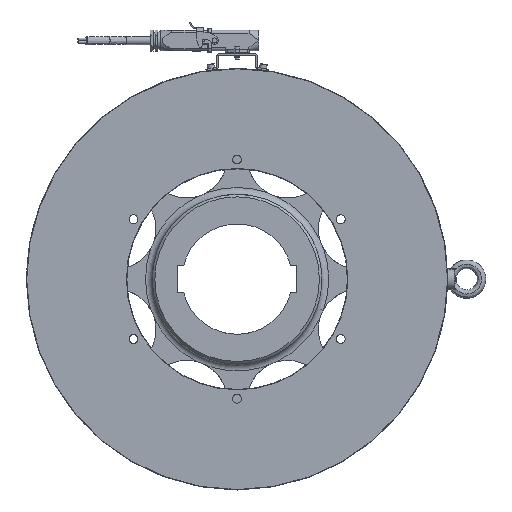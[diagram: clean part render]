
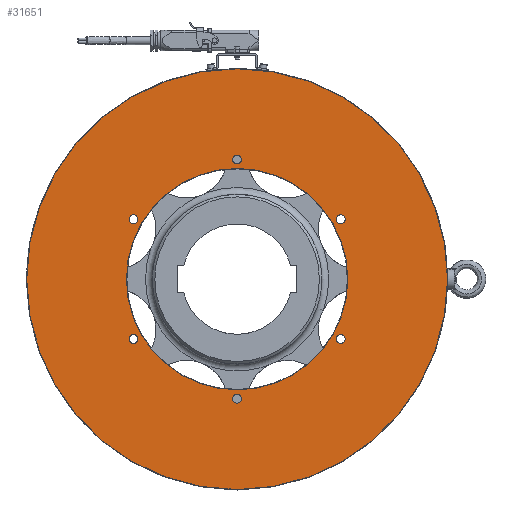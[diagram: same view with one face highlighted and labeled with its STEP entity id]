
A CAD part, left-side view. The second image highlights one B-rep face of the part: STEP entity #31651.
In plain terms, the highlighted planar face has unit normal (-1, 0, 0).
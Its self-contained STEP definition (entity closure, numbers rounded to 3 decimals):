
#428=FACE_BOUND('',#4457,.T.);
#429=FACE_BOUND('',#4458,.T.);
#430=FACE_BOUND('',#4459,.T.);
#431=FACE_BOUND('',#4460,.T.);
#432=FACE_BOUND('',#4461,.T.);
#433=FACE_BOUND('',#4462,.T.);
#434=FACE_BOUND('',#4463,.T.);
#1346=PLANE('',#33934);
#2732=FACE_OUTER_BOUND('',#4456,.T.);
#4456=EDGE_LOOP('',(#25369,#25370));
#4457=EDGE_LOOP('',(#25371));
#4458=EDGE_LOOP('',(#25372));
#4459=EDGE_LOOP('',(#25373));
#4460=EDGE_LOOP('',(#25374));
#4461=EDGE_LOOP('',(#25375));
#4462=EDGE_LOOP('',(#25376));
#4463=EDGE_LOOP('',(#25377));
#5778=CIRCLE('',#33907,130.5);
#5781=CIRCLE('',#33912,5.25);
#5782=CIRCLE('',#33914,5.25);
#5783=CIRCLE('',#33916,5.25);
#5784=CIRCLE('',#33918,5.25);
#5785=CIRCLE('',#33920,5.25);
#5786=CIRCLE('',#33922,5.25);
#5787=CIRCLE('',#33924,248.);
#5788=CIRCLE('',#33925,248.);
#13956=VERTEX_POINT('',#52200);
#13960=VERTEX_POINT('',#52270);
#13961=VERTEX_POINT('',#52274);
#13962=VERTEX_POINT('',#52278);
#13963=VERTEX_POINT('',#52282);
#13964=VERTEX_POINT('',#52286);
#13965=VERTEX_POINT('',#52290);
#13966=VERTEX_POINT('',#52294);
#13967=VERTEX_POINT('',#52295);
#17929=EDGE_CURVE('',#13956,#13956,#5778,.T.);
#17935=EDGE_CURVE('',#13960,#13960,#5781,.T.);
#17937=EDGE_CURVE('',#13961,#13961,#5782,.T.);
#17939=EDGE_CURVE('',#13962,#13962,#5783,.T.);
#17941=EDGE_CURVE('',#13963,#13963,#5784,.T.);
#17943=EDGE_CURVE('',#13964,#13964,#5785,.T.);
#17945=EDGE_CURVE('',#13965,#13965,#5786,.T.);
#17946=EDGE_CURVE('',#13966,#13967,#5787,.T.);
#17947=EDGE_CURVE('',#13967,#13966,#5788,.T.);
#25369=ORIENTED_EDGE('',*,*,#17946,.T.);
#25370=ORIENTED_EDGE('',*,*,#17947,.T.);
#25371=ORIENTED_EDGE('',*,*,#17945,.T.);
#25372=ORIENTED_EDGE('',*,*,#17943,.T.);
#25373=ORIENTED_EDGE('',*,*,#17941,.T.);
#25374=ORIENTED_EDGE('',*,*,#17939,.T.);
#25375=ORIENTED_EDGE('',*,*,#17937,.T.);
#25376=ORIENTED_EDGE('',*,*,#17935,.T.);
#25377=ORIENTED_EDGE('',*,*,#17929,.F.);
#31651=ADVANCED_FACE('',(#2732,#428,#429,#430,#431,#432,#433,#434),#1346,
 .T.);
#33907=AXIS2_PLACEMENT_3D('',#52202,#40990,#40991);
#33912=AXIS2_PLACEMENT_3D('',#52272,#41002,#41003);
#33914=AXIS2_PLACEMENT_3D('',#52276,#41007,#41008);
#33916=AXIS2_PLACEMENT_3D('',#52280,#41012,#41013);
#33918=AXIS2_PLACEMENT_3D('',#52284,#41017,#41018);
#33920=AXIS2_PLACEMENT_3D('',#52288,#41022,#41023);
#33922=AXIS2_PLACEMENT_3D('',#52292,#41027,#41028);
#33924=AXIS2_PLACEMENT_3D('',#52296,#41031,#41032);
#33925=AXIS2_PLACEMENT_3D('',#52297,#41033,#41034);
#33934=AXIS2_PLACEMENT_3D('',#52316,#41055,#41056);
#40990=DIRECTION('center_axis',(-1.,0.,0.));
#40991=DIRECTION('ref_axis',(0.,-1.,0.));
#41002=DIRECTION('center_axis',(1.,0.,0.));
#41003=DIRECTION('ref_axis',(0.,0.,
-1.));
#41007=DIRECTION('center_axis',(1.,0.,0.));
#41008=DIRECTION('ref_axis',(0.,0.,
-1.));
#41012=DIRECTION('center_axis',(1.,0.,0.));
#41013=DIRECTION('ref_axis',(0.,0.,
-1.));
#41017=DIRECTION('center_axis',(1.,0.,0.));
#41018=DIRECTION('ref_axis',(0.,0.,
-1.));
#41022=DIRECTION('center_axis',(1.,0.,0.));
#41023=DIRECTION('ref_axis',(0.,0.,
-1.));
#41027=DIRECTION('center_axis',(1.,0.,0.));
#41028=DIRECTION('ref_axis',(0.,0.,
-1.));
#41031=DIRECTION('center_axis',(-1.,0.,0.));
#41032=DIRECTION('ref_axis',(0.,1.,0.));
#41033=DIRECTION('center_axis',(-1.,0.,0.));
#41034=DIRECTION('ref_axis',(0.,1.,0.));
#41055=DIRECTION('center_axis',(-1.,0.,0.));
#41056=DIRECTION('ref_axis',(0.,0.,
1.));
#52200=CARTESIAN_POINT('',(-61.926,130.5,0.));
#52202=CARTESIAN_POINT('Origin',(-61.926,0.,
0.));
#52270=CARTESIAN_POINT('',(-61.926,122.11,75.75));
#52272=CARTESIAN_POINT('Origin',(-61.926,122.11,70.5));
#52274=CARTESIAN_POINT('',(-61.926,0.,-135.75));
#52276=CARTESIAN_POINT('Origin',(-61.926,0.,
-141.));
#52278=CARTESIAN_POINT('',(-61.926,-122.11,75.75));
#52280=CARTESIAN_POINT('Origin',(-61.926,-122.11,70.5));
#52282=CARTESIAN_POINT('',(-61.926,0.,146.25));
#52284=CARTESIAN_POINT('Origin',(-61.926,0.,
141.));
#52286=CARTESIAN_POINT('',(-61.926,-122.11,-65.25));
#52288=CARTESIAN_POINT('Origin',(-61.926,-122.11,-70.5));
#52290=CARTESIAN_POINT('',(-61.926,122.11,-65.25));
#52292=CARTESIAN_POINT('Origin',(-61.926,122.11,-70.5));
#52294=CARTESIAN_POINT('',(-61.926,248.,0.));
#52295=CARTESIAN_POINT('',(-61.926,-248.,0.));
#52296=CARTESIAN_POINT('Origin',(-61.926,0.,
0.));
#52297=CARTESIAN_POINT('Origin',(-61.926,0.,
0.));
#52316=CARTESIAN_POINT('Origin',(-61.926,189.,0.));
